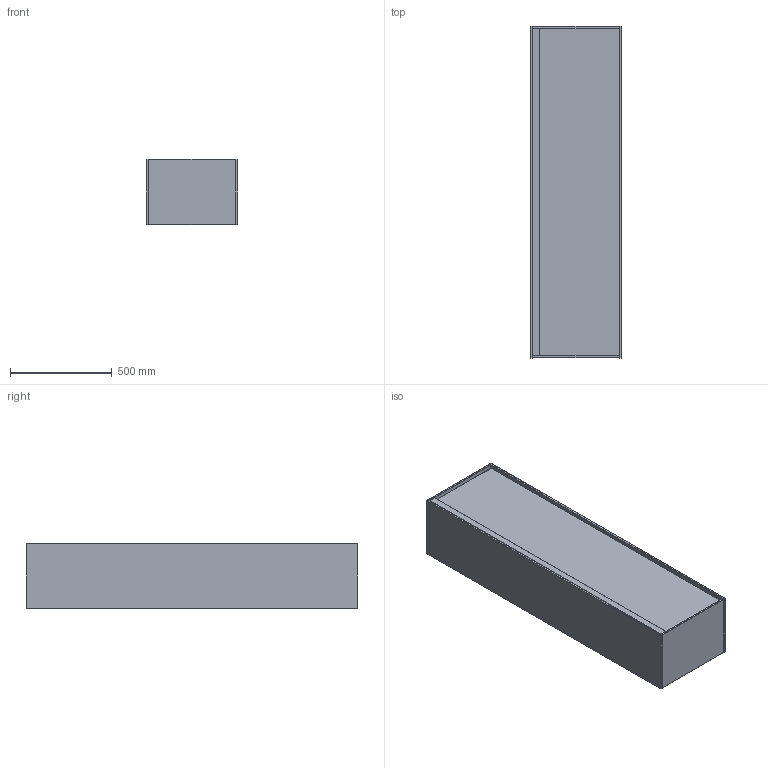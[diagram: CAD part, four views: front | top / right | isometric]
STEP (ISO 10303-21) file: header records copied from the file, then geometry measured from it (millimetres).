
FILE_DESCRIPTION (( 'STEP AP203' ), '1' );
FILE_NAME ('H2-TC-450-Shell-drawing.STEP', '2024-10-23T11:50:29', ( '' ), ( '' ), 'SwSTEP 2.0', 'SolidWorks 2024', '' );
FILE_SCHEMA (( 'CONFIG_CONTROL_DESIGN' ));
Length unit declared in the file: millimetre
Products named in the file (5): Sida-1630x320x10; Topp-botten-320x428x10; H2-TC-450-Shell-drawing; Handdtag-1608x35x20; Lucka-1608x428x10
Assembly tree (6 placements, depth 2):
  H2-TC-450-Shell-drawing
    Topp-botten-320x428x10  x2
    Handdtag-1608x35x20
    Lucka-1608x428x10
    Sida-1630x320x10  x2
Bounding box: 448 x 1630 x 320 mm (x, y, z)
Volume: 21010021.8 mm3; surface area: 4308664.2 mm2
Topology: 6 solids, 6 shells, 156 faces, 337 edges, 145 vertices
Faces by surface type: cylinder 72, sphere 48, plane 36
Entity records: 3071 total; most frequent: DIRECTION 514, CARTESIAN_POINT 401, ORIENTED_EDGE 384, AXIS2_PLACEMENT_3D 209, EDGE_CURVE 192, EDGE_LOOP 104, ADVANCED_FACE 104, FACE_OUTER_BOUND 104
